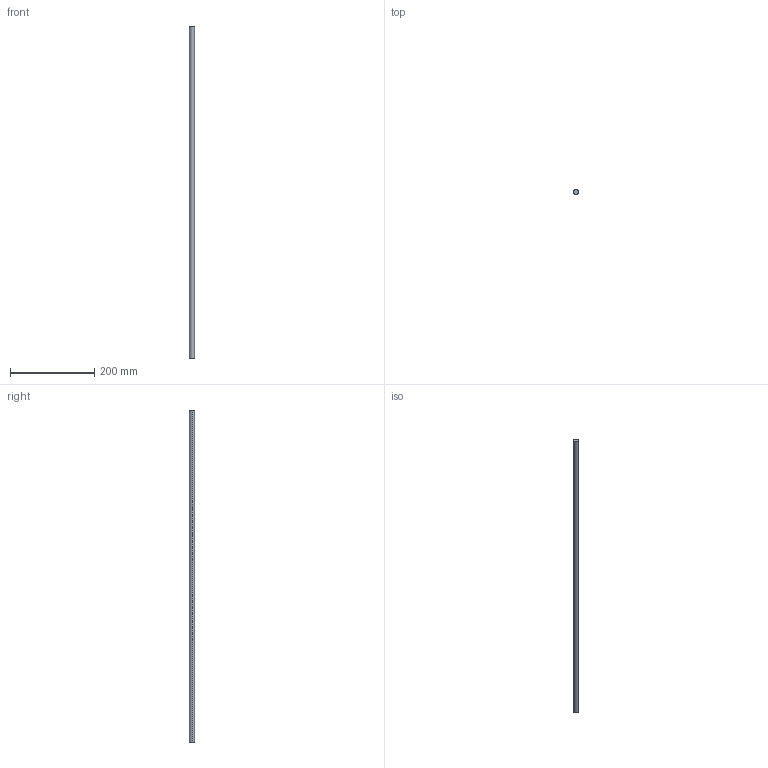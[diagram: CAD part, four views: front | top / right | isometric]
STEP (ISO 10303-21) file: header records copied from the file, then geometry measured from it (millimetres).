
FILE_DESCRIPTION (( 'STEP AP214' ), '1' );
FILE_NAME ('Innenschub H182 - S16_S17 - 900.step', '2010-09-07T14:55:59', ( 'grass' ), ( '' ), 'SwSTEP 2.0', 'SolidWorks 2010', '' );
FILE_SCHEMA (( 'AUTOMOTIVE_DESIGN' ));
Length unit declared in the file: millimetre
Products named in the file (1): Innenschub H182 - S16_S17 - 900
Bounding box: 12 x 12 x 787 mm (x, y, z)
Volume: 89007.6 mm3; surface area: 29895.4 mm2
Topology: 1 solids, 1 shells, 4 faces, 6 edges, 4 vertices
Faces by surface type: cylinder 2, plane 2
Entity records: 128 total; most frequent: DIRECTION 20, CARTESIAN_POINT 15, ORIENTED_EDGE 12, AXIS2_PLACEMENT_3D 9, EDGE_CURVE 6, EDGE_LOOP 4, CIRCLE 4, FACE_OUTER_BOUND 4
